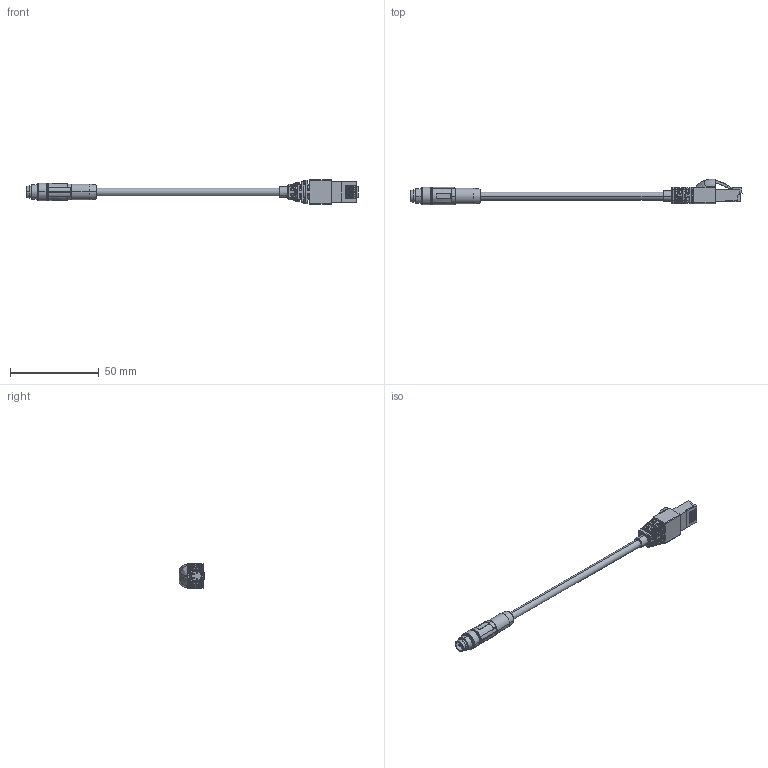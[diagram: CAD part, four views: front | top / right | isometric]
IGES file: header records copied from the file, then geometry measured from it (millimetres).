
Start section: SolidWorks IGES file using analytic representation for surfaces
Global section: file name: C:\Users\hokuyo\Desktop\UZ00062\UZ00062.IGS; native system: SolidWorks 2022; preprocessor: SolidWorks 2022; author: hokuyo; date: 250221.171041; units: millimetre
Bounding box: 187.2 x 14.59 x 13.9 mm (x, y, z)
Surface area: 5386 mm2 (no closed solid volume)
Topology: 0 solids, 0 shells, 540 faces, 4769 edges, 4751 vertices
Faces by surface type: bspline 307, revolution 233
